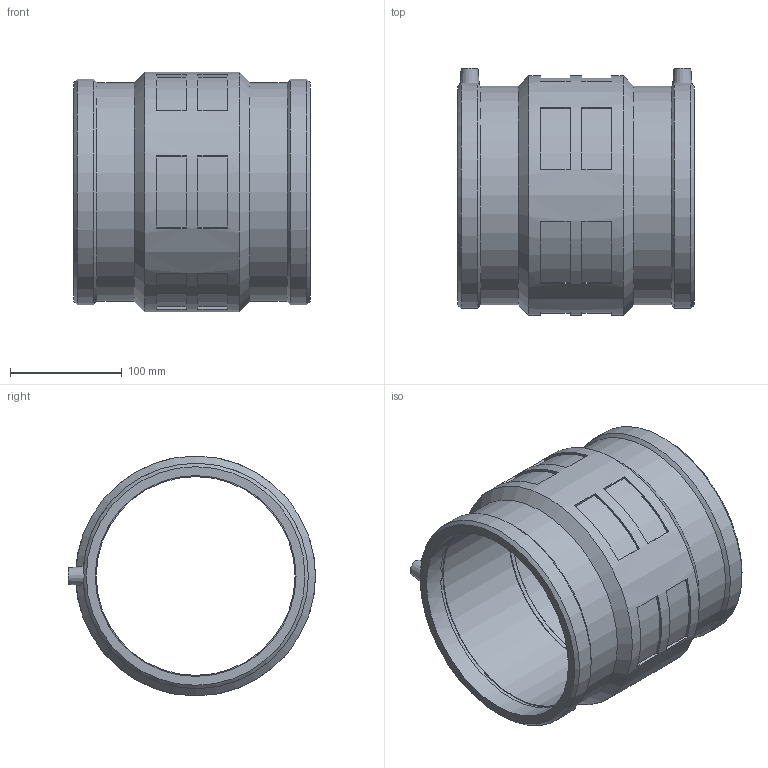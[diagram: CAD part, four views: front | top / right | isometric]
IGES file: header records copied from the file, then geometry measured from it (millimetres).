
Global section: file name: 460104180.ipt; native system: Autodesk Inventor 2015; preprocessor: unknown; author: KIM; date: 20171106.093418; units: millimetre
Bounding box: 212 x 221.5 x 215 mm (x, y, z)
Volume: 1607236.6 mm3; surface area: 283083.5 mm2
Topology: 1 solids, 1 shells, 98 faces, 236 edges, 158 vertices
Faces by surface type: plane 60, cylinder 19, cone 10, revolution 9
Full cylindrical faces by diameter (mm): 4 x2, 196.037 x2, 215 x1
